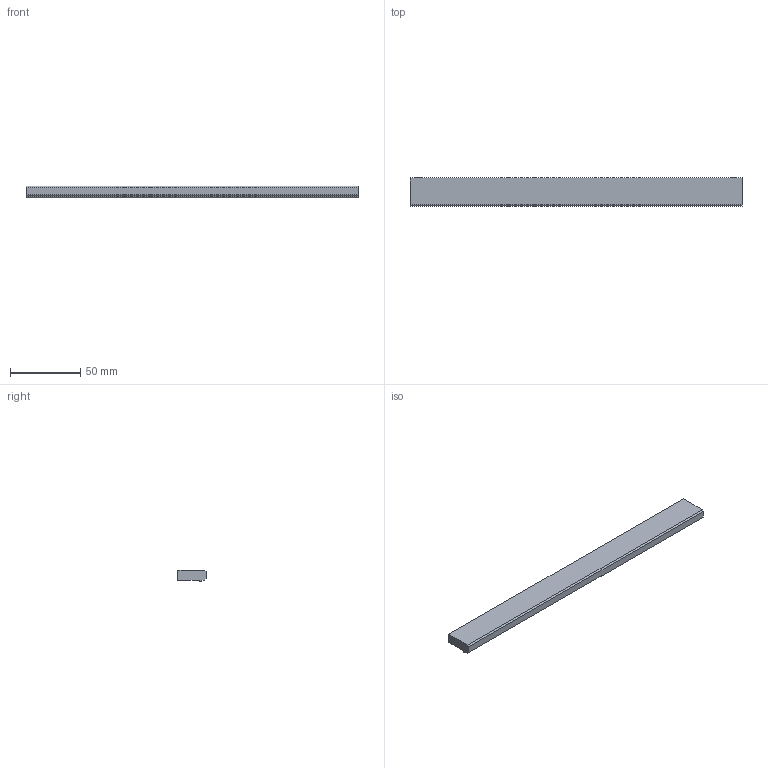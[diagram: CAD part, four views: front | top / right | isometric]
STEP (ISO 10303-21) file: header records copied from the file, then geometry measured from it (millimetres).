
FILE_DESCRIPTION( ( '' ), '1' );
FILE_NAME( 'D:/1.AUTOCAD EXPORT/Group 10/sheet_10_1/115024.stp', '2013-10-21T12:15:56', ( '' ), ( '' ), ' ', ' ', ' ' );
FILE_SCHEMA( ( 'automotive_design' ) );
Length unit declared in the file: millimetre
Products named in the file (1): 1
Bounding box: 236 x 20 x 8 mm (x, y, z)
Volume: 32973.6 mm3; surface area: 13219.1 mm2
Topology: 1 solids, 1 shells, 16 faces, 36 edges, 24 vertices
Faces by surface type: plane 11, cylinder 5
Entity records: 902 total; most frequent: DIRECTION 80, STYLED_ITEM 77, PRESENTATION_STYLE_ASSIGNMENT 77, CARTESIAN_POINT 77, COLOUR_RGB 77, ORIENTED_EDGE 72, EDGE_CURVE 36, CURVE_STYLE 36
